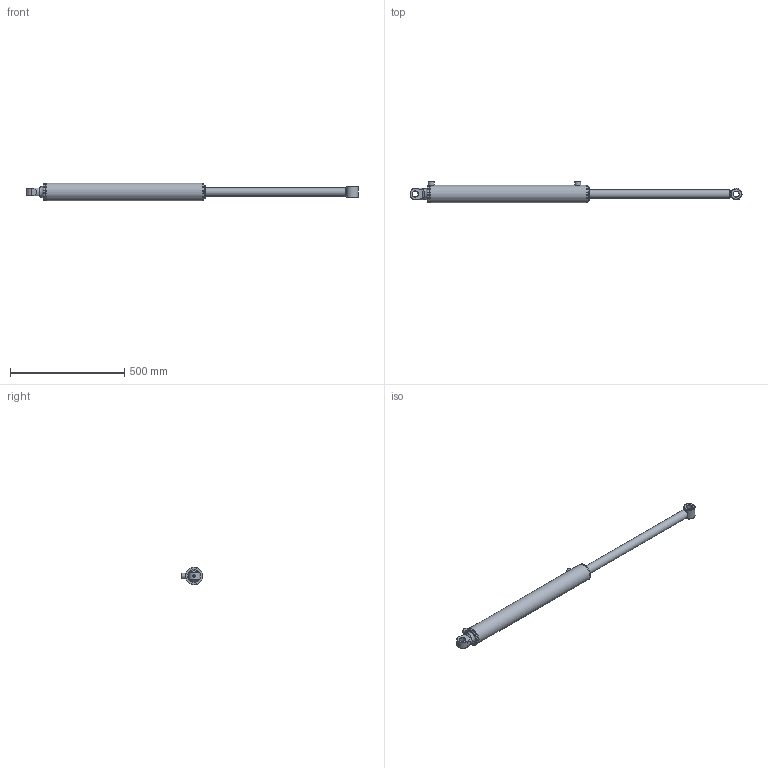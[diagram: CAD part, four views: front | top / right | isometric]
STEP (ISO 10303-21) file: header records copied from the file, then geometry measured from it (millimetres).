
FILE_DESCRIPTION(/* description */ ('Alibre Inc.'),/* implementation_level */ '2;1');
FILE_NAME(/* name */ 'export0',/* time_stamp */ '2016-08-16T09:58:06+12:00',/* author */ (''),/* organization */ (''),/* preprocessor_version */ 'ST-DEVELOPER v14',/* originating_system */ 'Alibre',/* authorisation */ '');
FILE_SCHEMA (('AUTOMOTIVE_DESIGN'));
Length unit declared in the file: centimetre
Bounding box: 1456.13 x 94.2 x 76.2 mm (x, y, z)
Volume: 2129871.5 mm3; surface area: 489804.3 mm2
Topology: 12 solids, 12 shells, 150 faces, 308 edges, 192 vertices
Faces by surface type: cylinder 55, plane 51, cone 28, torus 13, sphere 2, bspline 1
Full cylindrical faces by diameter (mm): 2.5 x2, 7 x3, 8.3 x2, 8.8 x1, 15.25 x2, 23 x1, 23.622 x1, 25 x2, 25.4 x2, 25.45 x1, 38.1 x1, 38.18 x2, 38.35 x1, 44.45 x1, 47.62 x2, 47.63 x1, 48 x2, 50.8 x1, 56.5 x1, 57.66 x1, 58.9 x2, 59.87 x2, 60.2 x1, 62.13 x2, 63.39 x2, 63.4 x1, 63.5 x2, 66.7 x1, 76.2 x3
Entity records: 4139 total; most frequent: CARTESIAN_POINT 1185, DIRECTION 569, ORIENTED_EDGE 394, AXIS2_PLACEMENT_3D 300, FACE_BOUND 271, EDGE_LOOP 269, EDGE_CURVE 197, VERTEX_POINT 174
